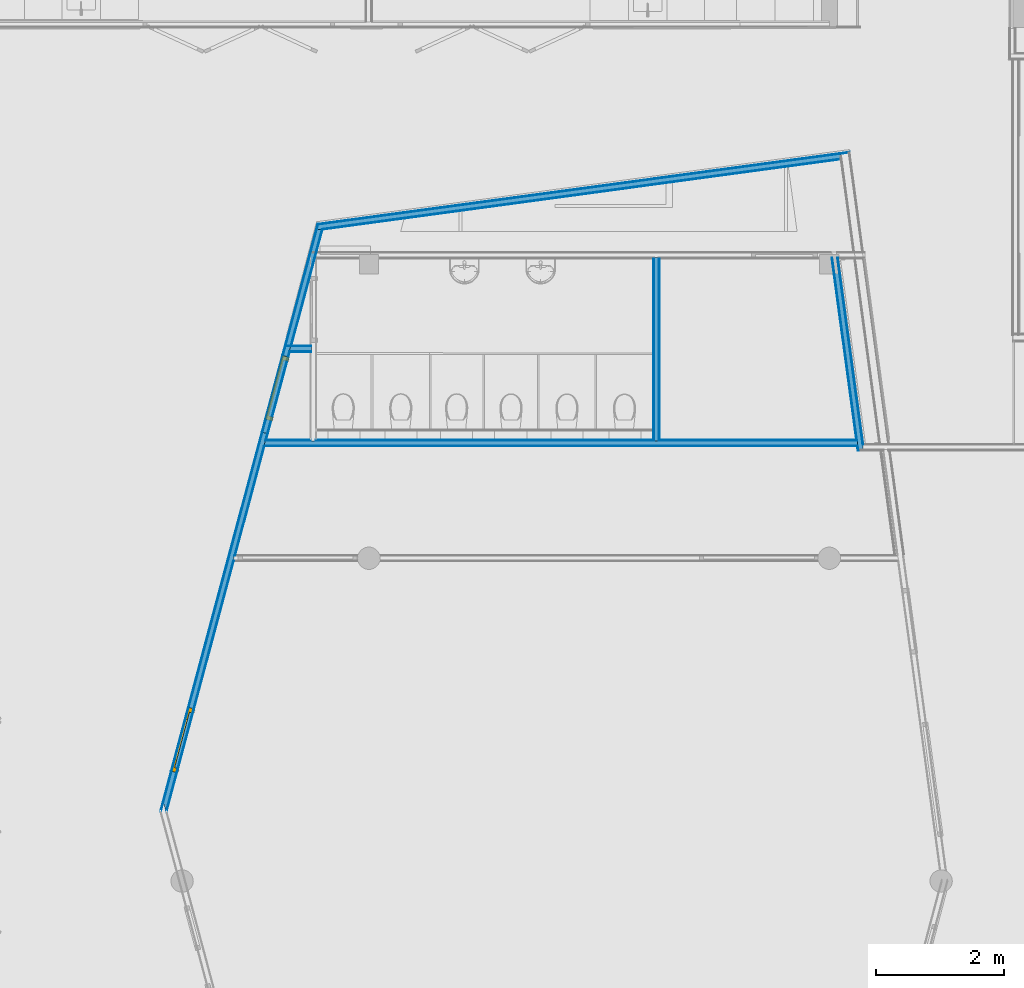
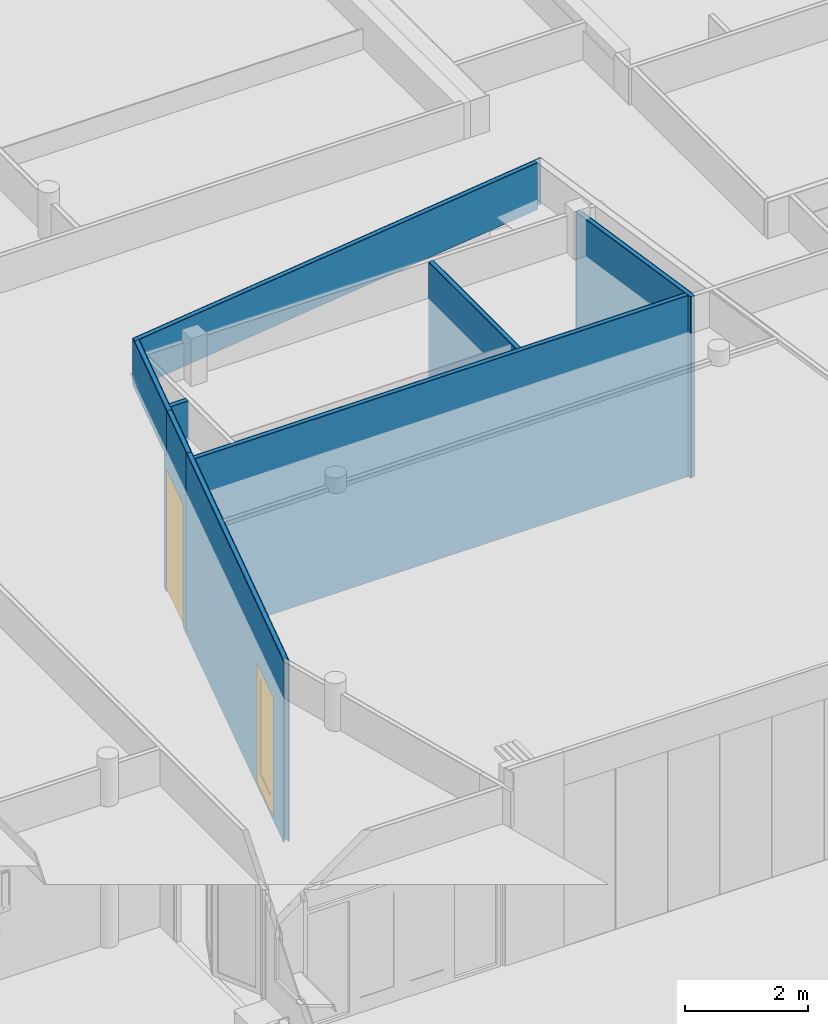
# One storey, part 63 of 167: 24 building element parts, 2 doors, 2 openings, 8 elements without a shape of their own.
"""IFC2X3 building model written with IfcOpenShell, lengths in millimetres."""

from ifc_helpers import new_model, entity, si_unit, converted_unit, derived_unit, money_unit, direction, frame, origin_with_axes, place, context, subcontext, project, spatial, open_shell, faceted_brep, surface_model, material, type_object, element, fill, aggregate, save


model = new_model("IFC2X3")

# Units and contexts
model_context = context("Model", 3, precision=0.01, world=origin_with_axes(), true_north=direction((0.0, 1.0)))
plan_context = context("Plan", 3, precision=0.01, world=origin_with_axes(), true_north=direction((0.0, 1.0)))
body_context = subcontext(model_context, "Body", "Model", "MODEL_VIEW")
ifc_project = project(units=[si_unit("LENGTHUNIT", "METRE", prefix="MILLI"), si_unit("AREAUNIT", "SQUARE_METRE"), si_unit("VOLUMEUNIT", "CUBIC_METRE"), converted_unit("PLANEANGLEUNIT", "DEGREE", entity("IfcPlaneAngleMeasure", 0.0174532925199), si_unit("PLANEANGLEUNIT", "RADIAN"), dimensions=[0, 0, 0, 0, 0, 0, 0]), si_unit("SOLIDANGLEUNIT", "STERADIAN"), money_unit("EUR"), converted_unit("TIMEUNIT", "Year", entity("IfcTimeMeasure", 31556926.0), si_unit("TIMEUNIT", "SECOND"), dimensions=[0, 0, 1, 0, 0, 0, 0]), si_unit("MASSUNIT", "GRAM", prefix="KILO"), si_unit("THERMODYNAMICTEMPERATUREUNIT", "DEGREE_CELSIUS"), si_unit("LUMINOUSINTENSITYUNIT", "LUMEN"), si_unit("ENERGYUNIT", "JOULE", prefix="MEGA"), derived_unit("THERMALCONDUCTANCEUNIT", [(si_unit("POWERUNIT", "WATT"), 1), (si_unit("LENGTHUNIT", "METRE"), -1), (si_unit("THERMODYNAMICTEMPERATUREUNIT", "KELVIN"), -1)]), derived_unit("SPECIFICHEATCAPACITYUNIT", [(si_unit("ENERGYUNIT", "JOULE"), 1), (si_unit("MASSUNIT", "GRAM", prefix="KILO"), -1), (si_unit("THERMODYNAMICTEMPERATUREUNIT", "KELVIN"), -1)]), derived_unit("MASSDENSITYUNIT", [(si_unit("MASSUNIT", "GRAM", prefix="KILO"), 1), (si_unit("VOLUMEUNIT", "CUBIC_METRE"), -1)])], contexts=[model_context, plan_context])

# Site, building, storey
site_placement = place(None, origin_with_axes())
site = spatial("IfcSite", under=ifc_project, at=site_placement, Name="Site", CompositionType="ELEMENT")
building_placement = place(site_placement, origin_with_axes())
building = spatial("IfcBuilding", under=site, at=building_placement, Name="Naam gebouw", CompositionType="ELEMENT")
storey_placement = place(building_placement, origin_with_axes())
storey = spatial("IfcBuildingStorey", under=building, at=storey_placement, Name="Begane grond", CompositionType="ELEMENT", Elevation=0.0)

# Door
door_style = type_object("IfcDoorStyle", Name="D1 24", ConstructionType="NOTDEFINED", OperationType="SINGLE_SWING_RIGHT", ParameterTakesPrecedence=False, Sizeable=False)
wall_3_placement = place(storey_placement, frame((13126.5539524, 37126.6966009, -100.0), z_axis=(0.0, 0.0, 1.0), x_axis=(-0.258819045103, -0.965925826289, 0.0)))
opening_1_placement = place(wall_3_placement, frame((637.5978603, 0.0, 100.0), z_axis=(0.0, 0.0, 1.0), x_axis=(1.0, 0.0, 0.0)))
door_1_placement = place(opening_1_placement, frame((517.0, 0.0, 0.0), z_axis=(0.0, 0.0, 1.0), x_axis=(-1.0, 0.0, 0.0)))
door_1 = element("IfcDoor", 1, at=door_1_placement, inside=storey, type_object=door_style, Name="32_Deur_Hi-01s", ObjectType="DOOR", OverallHeight=2367.0, OverallWidth=1034.0, context=body_context, shape_type="Brep", body=[
    faceted_brep([(67.0, 10.0, 0.0), (67.0, 10.0, 2300.0), (67.0, -64.0, 2300.0), (67.0, -64.0, 0.0), (42.0, 10.0, 2300.0), (42.0, 10.0, 0.0), (42.0, 50.0, 2300.0), (0.0, 50.0, 2300.0), (0.0, -64.0, 2300.0), (0.0, -64.0, 0.0), (0.0, 50.0, 0.0), (42.0, 50.0, 0.0)], [[[0, 1, 2, 3]], [[4, 1, 0, 5]], [[4, 6, 7, 8, 2, 1]], [[3, 2, 8, 9]], [[5, 0, 3, 9, 10, 11]], [[6, 4, 5, 11]], [[6, 11, 10, 7]], [[10, 9, 8, 7]]]),
    faceted_brep([(992.0, 10.0, 2300.0), (967.0, 10.0, 2300.0), (967.0, -64.0, 2300.0), (1034.0, -64.0, 2300.0), (1034.0, 50.0, 2300.0), (992.0, 50.0, 2300.0), (992.0, 10.0, 0.0), (967.0, 10.0, 0.0), (967.0, -64.0, 0.0), (1034.0, -64.0, 0.0), (1034.0, 50.0, 0.0), (992.0, 50.0, 0.0)], [[[0, 1, 2, 3, 4, 5]], [[1, 0, 6, 7]], [[1, 7, 8, 2]], [[3, 2, 8, 9]], [[4, 3, 9, 10]], [[11, 5, 4, 10]], [[0, 5, 11, 6]], [[6, 11, 10, 9, 8, 7]]]),
    faceted_brep([(42.0, 50.0, 2325.0), (42.0, 50.0, 2300.0), (0.0, 50.0, 2300.0), (0.0, 50.0, 2367.0), (1034.0, 50.0, 2367.0), (1034.0, 50.0, 2300.0), (992.0, 50.0, 2300.0), (992.0, 50.0, 2325.0), (42.0, 10.0, 2325.0), (42.0, 10.0, 2300.0), (67.0, 10.0, 2300.0), (67.0, -64.0, 2300.0), (0.0, -64.0, 2300.0), (0.0, -64.0, 2367.0), (1034.0, -64.0, 2367.0), (1034.0, -64.0, 2300.0), (992.0, 10.0, 2300.0), (967.0, -64.0, 2300.0), (967.0, 10.0, 2300.0), (992.0, 10.0, 2325.0)], [[[0, 1, 2, 3, 4, 5, 6, 7]], [[1, 0, 8, 9]], [[9, 10, 11, 12, 2, 1]], [[2, 12, 13, 3]], [[3, 13, 14, 4]], [[4, 14, 15, 5]], [[16, 6, 5, 15, 17, 18]], [[7, 6, 16, 19]], [[0, 7, 19, 8]], [[16, 18, 10, 9, 8, 19]], [[10, 18, 17, 11]], [[17, 15, 14, 13, 12, 11]]]),
    faceted_brep([(992.0, 50.0, 0.0), (992.0, 10.0, 0.0), (42.0, 10.0, 0.0), (42.0, 50.0, 0.0), (992.0, 50.0, 2325.0), (992.0, 10.0, 2325.0), (42.0, 10.0, 2325.0), (42.0, 50.0, 2325.0)], [[[0, 1, 2, 3]], [[4, 5, 1, 0]], [[1, 5, 6, 2]], [[3, 2, 6, 7]], [[0, 3, 7, 4]], [[7, 6, 5, 4]]]),
])

wall_7_placement = place(storey_placement, frame((12731.3288936, 35651.6966009, -100.0), z_axis=(0.0, 0.0, 1.0), x_axis=(-0.258819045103, -0.965925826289, 0.0)))
opening_2_placement = place(wall_7_placement, frame((4806.70984022, 0.0, 102.0), z_axis=(0.0, 0.0, 1.0), x_axis=(1.0, 0.0, 0.0)))
door_2_placement = place(opening_2_placement, frame((517.0, 0.0, 0.0), z_axis=(0.0, 0.0, 1.0), x_axis=(-1.0, 0.0, 0.0)))
door_2 = element("IfcDoor", 2, at=door_2_placement, inside=storey, type_object=door_style, Name="32_Deur_Hi-05", ObjectType="DOOR", OverallHeight=2367.0, OverallWidth=1034.0, context=body_context, shape_type="SurfaceModel", body=[
    faceted_brep([(67.0, 10.0, 0.0), (67.0, 10.0, 2300.0), (67.0, -64.0, 2300.0), (67.0, -64.0, 0.0), (42.0, 10.0, 2300.0), (42.0, 10.0, 0.0), (42.0, 50.0, 2300.0), (0.0, 50.0, 2300.0), (0.0, -64.0, 2300.0), (0.0, -64.0, 0.0), (0.0, 50.0, 0.0), (42.0, 50.0, 0.0)], [[[0, 1, 2, 3]], [[4, 1, 0, 5]], [[4, 6, 7, 8, 2, 1]], [[3, 2, 8, 9]], [[5, 0, 3, 9, 10, 11]], [[6, 4, 5, 11]], [[6, 11, 10, 7]], [[10, 9, 8, 7]]]),
    faceted_brep([(992.0, 10.0, 2300.0), (967.0, 10.0, 2300.0), (967.0, -64.0, 2300.0), (1034.0, -64.0, 2300.0), (1034.0, 50.0, 2300.0), (992.0, 50.0, 2300.0), (992.0, 10.0, 0.0), (967.0, 10.0, 0.0), (967.0, -64.0, 0.0), (1034.0, -64.0, 0.0), (1034.0, 50.0, 0.0), (992.0, 50.0, 0.0)], [[[0, 1, 2, 3, 4, 5]], [[1, 0, 6, 7]], [[1, 7, 8, 2]], [[3, 2, 8, 9]], [[4, 3, 9, 10]], [[11, 5, 4, 10]], [[0, 5, 11, 6]], [[6, 11, 10, 9, 8, 7]]]),
    faceted_brep([(42.0, 50.0, 2325.0), (42.0, 50.0, 2300.0), (0.0, 50.0, 2300.0), (0.0, 50.0, 2367.0), (1034.0, 50.0, 2367.0), (1034.0, 50.0, 2300.0), (992.0, 50.0, 2300.0), (992.0, 50.0, 2325.0), (42.0, 10.0, 2325.0), (42.0, 10.0, 2300.0), (67.0, 10.0, 2300.0), (67.0, -64.0, 2300.0), (0.0, -64.0, 2300.0), (0.0, -64.0, 2367.0), (1034.0, -64.0, 2367.0), (1034.0, -64.0, 2300.0), (992.0, 10.0, 2300.0), (967.0, -64.0, 2300.0), (967.0, 10.0, 2300.0), (992.0, 10.0, 2325.0)], [[[0, 1, 2, 3, 4, 5, 6, 7]], [[1, 0, 8, 9]], [[9, 10, 11, 12, 2, 1]], [[2, 12, 13, 3]], [[3, 13, 14, 4]], [[4, 14, 15, 5]], [[16, 6, 5, 15, 17, 18]], [[7, 6, 16, 19]], [[0, 7, 19, 8]], [[16, 18, 10, 9, 8, 19]], [[10, 18, 17, 11]], [[17, 15, 14, 13, 12, 11]]]),
    faceted_brep([(992.0, 50.0, 300.0), (992.0, 10.0, 300.0), (842.0, 10.0, 300.0), (842.0, 50.0, 300.0), (992.0, 50.0, 2175.0), (992.0, 10.0, 2175.0), (842.0, 10.0, 2175.0), (842.0, 50.0, 2175.0)], [[[0, 1, 2, 3]], [[4, 5, 1, 0]], [[1, 5, 6, 2]], [[3, 2, 6, 7]], [[0, 3, 7, 4]], [[7, 6, 5, 4]]]),
    faceted_brep([(42.0, 50.0, 300.0), (42.0, 10.0, 300.0), (42.0, 10.0, 2175.0), (42.0, 50.0, 2175.0), (192.0, 50.0, 300.0), (192.0, 10.0, 300.0), (192.0, 10.0, 2175.0), (192.0, 50.0, 2175.0)], [[[0, 1, 2, 3]], [[4, 5, 1, 0]], [[1, 5, 6, 2]], [[3, 2, 6, 7]], [[0, 3, 7, 4]], [[7, 6, 5, 4]]]),
    faceted_brep([(992.0, 50.0, 0.0), (992.0, 10.0, 0.0), (42.0, 10.0, 0.0), (42.0, 50.0, 0.0), (992.0, 50.0, 300.0), (992.0, 10.0, 300.0), (842.0, 10.0, 300.0), (192.0, 10.0, 300.0), (42.0, 10.0, 300.0), (42.0, 50.0, 300.0), (192.0, 50.0, 300.0), (842.0, 50.0, 300.0)], [[[0, 1, 2, 3]], [[4, 5, 1, 0]], [[1, 5, 6, 7, 8, 2]], [[3, 2, 8, 9]], [[0, 3, 9, 10, 11, 4]], [[11, 6, 5, 4]], [[10, 7, 6, 11]], [[9, 8, 7, 10]]]),
    faceted_brep([(992.0, 50.0, 2325.0), (992.0, 10.0, 2325.0), (992.0, 10.0, 2175.0), (992.0, 50.0, 2175.0), (42.0, 50.0, 2325.0), (42.0, 10.0, 2325.0), (42.0, 10.0, 2175.0), (192.0, 10.0, 2175.0), (842.0, 10.0, 2175.0), (842.0, 50.0, 2175.0), (192.0, 50.0, 2175.0), (42.0, 50.0, 2175.0)], [[[0, 1, 2, 3]], [[4, 5, 1, 0]], [[1, 5, 6, 7, 8, 2]], [[3, 2, 8, 9]], [[0, 3, 9, 10, 11, 4]], [[11, 6, 5, 4]], [[10, 7, 6, 11]], [[9, 8, 7, 10]]]),
    surface_model("IfcShellBasedSurfaceModel", [(842.0, 36.0, 300.0), (192.0, 36.0, 300.0), (192.0, 36.0, 2175.0), (842.0, 36.0, 2175.0)], [open_shell([[[0, 1, 2, 3]]])]),
    surface_model("IfcShellBasedSurfaceModel", [(842.0, 24.0, 300.0), (842.0, 24.0, 2175.0), (192.0, 24.0, 2175.0), (192.0, 24.0, 300.0)], [open_shell([[[0, 1, 2, 3]]])]),
])

# Wall, building element parts
wall_type = type_object("IfcWallType", Name="_TenW_22_Metalstud 100 enkel gipsvezelplaat 100", PredefinedType="NOTDEFINED")
wall_1_placement = place(storey_placement, frame((13498.7793695, 37126.6966009, -100.0), z_axis=(0.0, 0.0, 1.0), x_axis=(-1.0, 0.0, 0.0)))
wall_1 = element("IfcWall", 3, at=wall_1_placement, inside=storey, type_object=wall_type, Name="22_Wand_Wand-x")
ifc_material_1 = material(Name="Gipsplaat watervast")
building_element_part_1_placement = place(wall_1_placement, origin_with_axes())
building_element_part_1 = element("IfcBuildingElementPart", 4, at=building_element_part_1_placement, material=ifc_material_1, Name="Gipsplaat watervast", context=body_context, shape_type="Brep", body=[
    faceted_brep([(0.0, 50.0, 30.0), (0.0, 37.5, 30.0), (0.0, 37.5, 3630.0), (0.0, 50.0, 3630.0), (330.509704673, 37.5000071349, 30.0), (333.859069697, 50.0000075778, 30.0), (330.509702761, 37.5, 3630.0), (333.859067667, 50.0, 3630.0)], [[[0, 1, 2, 3]], [[4, 1, 0, 5]], [[1, 4, 6, 2]], [[2, 6, 7, 3]], [[5, 0, 3, 7]], [[4, 5, 7, 6]]]),
])
ifc_material_2 = material(Name="Isolatie - Steenwol zacht")
building_element_part_2_placement = place(wall_1_placement, origin_with_axes())
building_element_part_2 = element("IfcBuildingElementPart", 5, at=building_element_part_2_placement, material=ifc_material_2, Name="Isolatie - Steenwol zacht", context=body_context, shape_type="Brep", body=[
    faceted_brep([(0.0, 37.5, 30.0), (0.0, -37.5, 30.0), (0.0, -37.5, 3630.0), (0.0, 37.5, 3630.0), (323.354466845, -37.4999952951, 30.0), (343.450657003, 37.5000074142, 30.0), (323.354465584, -37.5, 3630.0), (343.450655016, 37.5, 3630.0)], [[[0, 1, 2, 3]], [[4, 1, 0, 5]], [[1, 4, 6, 2]], [[2, 6, 7, 3]], [[5, 0, 3, 7]], [[4, 5, 7, 6]]]),
])
building_element_part_3_placement = place(wall_1_placement, origin_with_axes())
building_element_part_3 = element("IfcBuildingElementPart", 6, at=building_element_part_3_placement, material=ifc_material_1, Name="Gipsplaat watervast", context=body_context, shape_type="Brep", body=[
    faceted_brep([(0.0, -37.5, 30.0), (0.0, -50.0, 30.0), (0.0, -50.0, 3630.0), (0.0, -37.5, 3630.0), (397.650814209, -50.0, 30.0), (401.000180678, -37.4999941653, 30.0), (397.650814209, -50.0, 2702.0), (307.064148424, -50.0, 2702.0), (307.064148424, -50.0, 3630.0), (310.413513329, -37.5, 3630.0), (310.413513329, -37.5, 2702.0), (401.000179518, -37.4999984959, 2702.0)], [[[0, 1, 2, 3]], [[4, 1, 0, 5]], [[1, 4, 6, 7, 8, 2]], [[2, 8, 9, 3]], [[5, 0, 3, 9, 10, 11]], [[4, 5, 11, 6]], [[11, 10, 7, 6]], [[10, 9, 8, 7]]]),
])
aggregate(wall_1, [building_element_part_1, building_element_part_2, building_element_part_3])

wall_2_placement = place(storey_placement, frame((18898.7746129, 38589.2116284, -100.0), z_axis=(0.0, 0.0, 1.0), x_axis=(0.0, -1.0, 0.0)))
wall_2 = element("IfcWall", 7, at=wall_2_placement, inside=storey, type_object=wall_type, Name="22_Wand_Wand-x")
building_element_part_4_placement = place(wall_2_placement, origin_with_axes())
building_element_part_4 = element("IfcBuildingElementPart", 8, at=building_element_part_4_placement, material=ifc_material_1, Name="Gipsplaat watervast", context=body_context, shape_type="Brep", body=[
    faceted_brep([(50.0, 37.5, 3630.0), (50.0, 50.0, 3630.0), (50.0, 50.0, 30.0), (50.0, 37.5, 30.0), (2887.51502748, 50.0, 3630.0), (2887.51502748, 37.5, 3630.0), (2887.51502748, 50.0, 30.0), (2887.51502748, 37.5, 30.0)], [[[0, 1, 2, 3]], [[4, 1, 0, 5]], [[1, 4, 6, 2]], [[3, 2, 6, 7]], [[5, 0, 3, 7]], [[4, 5, 7, 6]]]),
])
building_element_part_5_placement = place(wall_2_placement, origin_with_axes())
building_element_part_5 = element("IfcBuildingElementPart", 9, at=building_element_part_5_placement, material=ifc_material_2, Name="Isolatie - Steenwol zacht", context=body_context, shape_type="Brep", body=[
    faceted_brep([(37.5, -37.5, 3630.0), (37.5, 37.5, 3630.0), (37.5, 37.5, 30.0), (37.5, -37.5, 30.0), (2900.01502748, 37.5, 3630.0), (2900.01502748, -37.5, 3630.0), (2900.01502748, 37.5, 30.0), (2900.01502748, -37.5, 30.0)], [[[0, 1, 2, 3]], [[4, 1, 0, 5]], [[1, 4, 6, 2]], [[3, 2, 6, 7]], [[5, 0, 3, 7]], [[4, 5, 7, 6]]]),
])
building_element_part_6_placement = place(wall_2_placement, origin_with_axes())
building_element_part_6 = element("IfcBuildingElementPart", 10, at=building_element_part_6_placement, material=ifc_material_1, Name="Gipsplaat watervast", context=body_context, shape_type="Brep", body=[
    faceted_brep([(50.0, -50.0, 3630.0), (50.0, -37.5, 3630.0), (50.0, -37.5, 30.0), (50.0, -50.0, 30.0), (2887.51502748, -37.5, 3630.0), (2887.51502748, -50.0, 3630.0), (2887.51502748, -37.5, 30.0), (2887.51502748, -50.0, 30.0)], [[[0, 1, 2, 3]], [[4, 1, 0, 5]], [[1, 4, 6, 2]], [[3, 2, 6, 7]], [[5, 0, 3, 7]], [[4, 5, 7, 6]]]),
])
aggregate(wall_2, [building_element_part_4, building_element_part_5, building_element_part_6])

# Wall, opening
wall_3 = element("IfcWall", 11, at=wall_3_placement, inside=storey, type_object=wall_type, Name="22_Wand_Wand-x")
opening_1 = element("IfcOpeningElement", 12, at=opening_1_placement, cuts=wall_3, Name="32_Deur_Hi-01s", context=body_context, shape_type="Brep", body=[
    faceted_brep([(-517.0, 100.0, 2367.0), (-517.0, 100.0, 0.0), (-517.0, -200.0, 0.0), (-517.0, -200.0, 2367.0), (517.0, 100.0, 2367.0), (517.0, 100.0, 0.0), (517.0, -200.0, 0.0), (517.0, -200.0, 2367.0)], [[[0, 1, 2, 3]], [[0, 4, 5, 1]], [[1, 5, 6, 2]], [[3, 2, 6, 7]], [[4, 0, 3, 7]], [[5, 4, 7, 6]]]),
])

fill(opening_1, door_1)

# Building element part
building_element_part_7_placement = place(wall_3_placement, origin_with_axes())
building_element_part_7 = element("IfcBuildingElementPart", 13, at=building_element_part_7_placement, material=ifc_material_1, Name="Gipsplaat watervast", context=body_context, shape_type="Brep", body=[
    faceted_brep([(1154.5978603, 50.0, 100.0), (1154.5978603, 50.0, 2467.0), (120.5978603, 50.0, 2467.0), (120.5978603, 50.0, 100.0), (120.5978603, 50.0, 30.0), (25.4254045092, 50.0, 30.0), (25.4253971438, 50.0, 2702.0), (120.5978603, 50.0, 2702.0), (120.5978603, 50.0, 3630.0), (1474.81204972, 50.0, 3630.0), (1474.81204972, 50.0, 30.0), (1154.5978603, 50.0, 30.0), (1154.5978603, 37.5, 100.0), (1154.5978603, 37.5, 2467.0), (120.5978603, 37.5, 2467.0), (120.5978603, 37.5, 100.0), (120.5978603, 37.5, 30.0), (28.774769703, 37.5, 30.0), (28.7747620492, 37.5, 2702.0), (120.5978603, 37.5, 2702.0), (120.5978603, 37.5, 3630.0), (1478.16141462, 37.5, 3630.0), (1478.16141462, 37.5, 30.0), (1154.5978603, 37.5, 30.0)], [[[0, 1, 2, 3, 4, 5, 6, 7, 8, 9, 10, 11]], [[1, 0, 12, 13]], [[2, 1, 13, 14]], [[3, 2, 14, 15]], [[3, 15, 16, 4]], [[16, 17, 5, 4]], [[17, 18, 6, 5]], [[7, 6, 18, 19]], [[8, 7, 19, 20]], [[8, 20, 21, 9]], [[21, 22, 10, 9]], [[11, 10, 22, 23]], [[12, 0, 11, 23]], [[13, 12, 23, 22, 21, 20, 19, 18, 17, 16, 15, 14]]]),
])

building_element_part_8_placement = place(wall_3_placement, origin_with_axes())
building_element_part_8 = element("IfcBuildingElementPart", 14, at=building_element_part_8_placement, material=ifc_material_2, Name="Isolatie - Steenwol zacht", context=body_context, shape_type="Brep", body=[
    faceted_brep([(1154.5978603, 37.5, 100.0), (1154.5978603, 37.5, 2467.0), (120.5978603, 37.5, 2467.0), (120.5978603, 37.5, 100.0), (120.5978603, 37.5, 30.0), (-48.8709466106, 37.5, 30.0), (-48.8709502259, 37.5, 2702.0), (120.5978603, 37.5, 2702.0), (120.5978603, 37.5, 3630.0), (1361.87109746, 37.5, 3630.0), (1361.87109746, 37.5, 30.0), (1154.5978603, 37.5, 30.0), (1154.5978603, -37.5, 100.0), (1154.5978603, -37.5, 2467.0), (120.5978603, -37.5, 2467.0), (120.5978603, -37.5, 100.0), (120.5978603, -37.5, 30.0), (-28.7747560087, -37.5, 30.0), (-28.7747604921, -37.5, 2702.0), (120.5978603, -37.5, 2702.0), (120.5978603, -37.5, 3630.0), (1361.87109746, -37.5, 3630.0), (1361.87109746, -37.5, 30.0), (1154.5978603, -37.5, 30.0)], [[[0, 1, 2, 3, 4, 5, 6, 7, 8, 9, 10, 11]], [[1, 0, 12, 13]], [[2, 1, 13, 14]], [[3, 2, 14, 15]], [[3, 15, 16, 4]], [[16, 17, 5, 4]], [[17, 18, 6, 5]], [[7, 6, 18, 19]], [[8, 7, 19, 20]], [[8, 20, 21, 9]], [[21, 22, 10, 9]], [[11, 10, 22, 23]], [[12, 0, 11, 23]], [[13, 12, 23, 22, 21, 20, 19, 18, 17, 16, 15, 14]]]),
])

building_element_part_9_placement = place(wall_3_placement, origin_with_axes())
building_element_part_9 = element("IfcBuildingElementPart", 15, at=building_element_part_9_placement, material=ifc_material_1, Name="Gipsplaat watervast", context=body_context, shape_type="Brep", body=[
    faceted_brep([(1154.5978603, -37.5, 100.0), (1154.5978603, -37.5, 2467.0), (120.5978603, -37.5, 2467.0), (120.5978603, -37.5, 100.0), (120.5978603, -37.5, 30.0), (-41.7157143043, -37.5, 30.0), (-41.7157143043, -37.5, 2702.0), (120.5978603, -37.5, 2702.0), (120.5978603, -37.5, 3630.0), (1361.87109746, -37.5, 3630.0), (1361.87109746, -37.5, 30.0), (1154.5978603, -37.5, 30.0), (1154.5978603, -50.0, 100.0), (1154.5978603, -50.0, 2467.0), (120.5978603, -50.0, 2467.0), (120.5978603, -50.0, 100.0), (120.5978603, -50.0, 30.0), (-38.3663493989, -50.0, 30.0), (-38.3663493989, -50.0, 2702.0), (120.5978603, -50.0, 2702.0), (120.5978603, -50.0, 3630.0), (1361.87109746, -50.0, 3630.0), (1361.87109746, -50.0, 30.0), (1154.5978603, -50.0, 30.0)], [[[0, 1, 2, 3, 4, 5, 6, 7, 8, 9, 10, 11]], [[1, 0, 12, 13]], [[2, 1, 13, 14]], [[3, 2, 14, 15]], [[3, 15, 16, 4]], [[16, 17, 5, 4]], [[17, 18, 6, 5]], [[7, 6, 18, 19]], [[8, 7, 19, 20]], [[8, 20, 21, 9]], [[21, 22, 10, 9]], [[11, 10, 22, 23]], [[12, 0, 11, 23]], [[13, 12, 23, 22, 21, 20, 19, 18, 17, 16, 15, 14]]]),
])

aggregate(wall_3, [building_element_part_7, building_element_part_8, building_element_part_9])

# Wall, building element parts
wall_4_placement = place(storey_placement, frame((12731.3288936, 35651.6966009, -100.0), z_axis=(0.0, 0.0, 1.0), x_axis=(1.0, 0.0, 0.0)))
wall_4 = element("IfcWall", 16, at=wall_4_placement, inside=storey, type_object=wall_type, Name="22_Wand_Wand-x")
building_element_part_10_placement = place(wall_4_placement, origin_with_axes())
building_element_part_10 = element("IfcBuildingElementPart", 17, at=building_element_part_10_placement, material=ifc_material_1, Name="Gipsplaat watervast", context=body_context, shape_type="Brep", body=[
    faceted_brep([(65.1612686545, 50.0000000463, 3630.0), (761.238429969, 50.0000020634, 3630.0), (761.238429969, 50.0000000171, 30.0), (65.1612686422, 50.0000000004, 30.0), (761.238429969, 37.5000007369, 3630.0), (61.8119037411, 37.5000000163, 3630.0), (761.238429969, 37.5000000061, 30.0), (61.8119037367, 37.5000000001, 30.0)], [[[0, 1, 2, 3]], [[4, 1, 0, 5]], [[1, 4, 6, 2]], [[3, 2, 6, 7]], [[5, 0, 3, 7]], [[4, 5, 7, 6]]]),
    faceted_brep([(836.238429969, 50.0000020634, 3630.0), (6129.94571925, 50.0000020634, 3630.0), (6129.94571925, 50.0000000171, 30.0), (836.238429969, 50.0000000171, 30.0), (6129.94571925, 37.5000007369, 3630.0), (836.238429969, 37.5000007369, 3630.0), (6129.94571925, 37.5000000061, 30.0), (836.238429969, 37.5000000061, 30.0)], [[[0, 1, 2, 3]], [[4, 1, 0, 5]], [[1, 4, 6, 2]], [[3, 2, 6, 7]], [[5, 0, 3, 7]], [[4, 5, 7, 6]]]),
    faceted_brep([(9291.10118956, 50.0000020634, 3630.0), (9292.79417148, 37.5000007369, 3630.0), (9292.79417157, 37.5000000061, 30.0), (9291.10118984, 50.0000000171, 30.0), (6204.94571925, 37.5000007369, 3630.0), (6204.94571925, 50.0000020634, 3630.0), (6204.94571925, 37.5000000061, 30.0), (6204.94571925, 50.0000000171, 30.0)], [[[0, 1, 2, 3]], [[4, 1, 0, 5]], [[1, 4, 6, 2]], [[3, 2, 6, 7]], [[5, 0, 3, 7]], [[4, 5, 7, 6]]]),
])
building_element_part_11_placement = place(wall_4_placement, origin_with_axes())
building_element_part_11 = element("IfcBuildingElementPart", 18, at=building_element_part_11_placement, material=ifc_material_2, Name="Isolatie - Steenwol zacht", context=body_context, shape_type="Brep", body=[
    faceted_brep([(9305.40829797, 37.5000007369, 3630.0), (9315.56618831, -37.4999986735, 3630.0), (9315.56618849, -37.499999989, 30.0), (9305.40829807, 37.5000000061, 30.0), (28.7747620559, -37.4999999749, 3630.0), (48.8709514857, 37.5000000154, 3630.0), (28.7747620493, -37.4999999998, 30.0), (48.8709514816, 37.5000000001, 30.0)], [[[0, 1, 2, 3]], [[4, 1, 0, 5]], [[1, 4, 6, 2]], [[3, 2, 6, 7]], [[5, 0, 3, 7]], [[4, 5, 7, 6]]]),
])
building_element_part_12_placement = place(wall_4_placement, origin_with_axes())
building_element_part_12 = element("IfcBuildingElementPart", 19, at=building_element_part_12_placement, material=ifc_material_1, Name="Gipsplaat watervast", context=body_context, shape_type="Brep", body=[
    faceted_brep([(9302.95206182, -37.4999986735, 3630.0), (9304.64504373, -50.0, 3630.0), (9304.64504373, -50.0, 30.0), (9302.95206199, -37.499999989, 30.0), (25.4253971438, -50.0, 3630.0), (28.7747620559, -37.4999999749, 3630.0), (25.4253971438, -50.0, 30.0), (28.7747620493, -37.4999999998, 30.0)], [[[0, 1, 2, 3]], [[4, 1, 0, 5]], [[1, 4, 6, 2]], [[3, 2, 6, 7]], [[5, 0, 3, 7]], [[4, 5, 7, 6]]]),
])
aggregate(wall_4, [building_element_part_10, building_element_part_11, building_element_part_12])

wall_5_placement = place(storey_placement, frame((21680.4359848, 38599.3253529, -100.0), z_axis=(0.0, 0.0, 1.0), x_axis=(0.134213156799, -0.990952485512, 0.0)))
wall_5 = element("IfcWall", 20, at=wall_5_placement, inside=storey, type_object=wall_type, Name="22_Wand_Wand-x")
building_element_part_13_placement = place(wall_5_placement, origin_with_axes())
building_element_part_13 = element("IfcBuildingElementPart", 21, at=building_element_part_13_placement, material=ifc_material_1, Name="Gipsplaat watervast", context=body_context, shape_type="Brep", body=[
    faceted_brep([(54.820370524, 50.0, 3630.0), (3009.41051151, 50.0, 3630.0), (3009.41051151, 50.0, 30.0), (54.820370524, 50.0, 30.0), (3007.71752978, 37.5, 3630.0), (53.1273887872, 37.5, 3630.0), (3007.71752978, 37.5, 30.0), (53.1273887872, 37.5, 30.0)], [[[0, 1, 2, 3]], [[4, 1, 0, 5]], [[1, 4, 6, 2]], [[3, 2, 6, 7]], [[5, 0, 3, 7]], [[4, 5, 7, 6]]]),
])
building_element_part_14_placement = place(wall_5_placement, origin_with_axes())
building_element_part_14 = element("IfcBuildingElementPart", 22, at=building_element_part_14_placement, material=ifc_material_2, Name="Isolatie - Steenwol zacht", context=body_context, shape_type="Brep", body=[
    faceted_brep([(0.0, 37.5, 3630.0), (3040.4810655, 37.5, 3630.0), (3083.40228873, 37.5, 3630.0), (3083.40228873, 37.5, 30.0), (0.0, 37.5, 30.0), (0.0, -37.5, 3630.0), (3040.4810655, -37.5, 3630.0), (3073.24439831, -37.5, 3630.0), (3073.24439831, -37.5, 30.0), (0.0, -37.5, 30.0)], [[[0, 1, 2, 3, 4]], [[1, 0, 5, 6, 7, 2]], [[8, 3, 2, 7]], [[4, 3, 8, 9]], [[5, 0, 4, 9]], [[6, 5, 9, 8, 7]]]),
])
building_element_part_15_placement = place(wall_5_placement, origin_with_axes())
building_element_part_15 = element("IfcBuildingElementPart", 23, at=building_element_part_15_placement, material=ifc_material_1, Name="Gipsplaat watervast", context=body_context, shape_type="Brep", body=[
    faceted_brep([(42.9694983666, -37.5, 3630.0), (2931.61962976, -37.5, 3630.0), (2931.61962976, -37.5, 30.0), (42.9694983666, -37.5, 30.0), (2929.92664802, -50.0, 3630.0), (41.2765166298, -50.0, 3630.0), (2929.92664802, -50.0, 30.0), (41.2765166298, -50.0, 30.0)], [[[0, 1, 2, 3]], [[4, 1, 0, 5]], [[1, 4, 6, 2]], [[3, 2, 6, 7]], [[5, 0, 3, 7]], [[4, 5, 7, 6]]]),
    faceted_brep([(3007.30438871, -37.5, 3630.0), (3040.4810655, -37.5, 3630.0), (3085.85850991, -37.5, 3630.0), (3085.85850991, -37.5, 30.0), (3007.30438871, -37.5, 30.0), (3005.61140698, -50.0, 3630.0), (3040.4810655, -50.0, 3630.0), (3084.16552818, -50.0, 3630.0), (3084.16552818, -50.0, 30.0), (3005.61140698, -50.0, 30.0)], [[[0, 1, 2, 3, 4]], [[1, 0, 5, 6, 7, 2]], [[8, 3, 2, 7]], [[4, 3, 8, 9]], [[5, 0, 4, 9]], [[6, 5, 9, 8, 7]]]),
])
aggregate(wall_5, [building_element_part_13, building_element_part_14, building_element_part_15])

wall_6_placement = place(storey_placement, frame((13637.6065716, 39033.9709411, 2602.0), z_axis=(0.0, 0.0, 1.0), x_axis=(0.990952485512, 0.134213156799, 0.0)))
wall_6 = element("IfcWall", 24, at=wall_6_placement, inside=storey, type_object=wall_type, Name="22_Wand_Wand-x")
building_element_part_16_placement = place(wall_6_placement, origin_with_axes())
building_element_part_16 = element("IfcBuildingElementPart", 25, at=building_element_part_16_placement, material=ifc_material_1, Name="Gipsplaat watervast", context=body_context, shape_type="Brep", body=[
    faceted_brep([(8363.03448579, 37.5, 0.0), (-38.506816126, 37.5, 0.0), (-33.2745885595, 50.0, 0.0), (8363.03448579, 50.0, 0.0), (8363.03448579, 37.5, 928.0), (-38.506816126, 37.5, 928.0), (-33.2745885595, 50.0, 928.0), (8363.03448579, 50.0, 928.0)], [[[0, 1, 2, 3]], [[4, 5, 1, 0]], [[2, 1, 5, 6]], [[3, 2, 6, 7]], [[3, 7, 4, 0]], [[7, 6, 5, 4]]]),
])
building_element_part_17_placement = place(wall_6_placement, origin_with_axes())
building_element_part_17 = element("IfcBuildingElementPart", 26, at=building_element_part_17_placement, material=ifc_material_2, Name="Isolatie - Steenwol zacht", context=body_context, shape_type="Brep", body=[
    faceted_brep([(8225.53448579, -37.5, 0.0), (-56.3493068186, -37.5, 0.0), (-24.9559414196, 37.5, 0.0), (8225.53448579, 37.5, 0.0), (8225.53448579, -37.5, 928.0), (-56.3493068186, -37.5, 928.0), (-24.9559414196, 37.5, 928.0), (8225.53448579, 37.5, 928.0)], [[[0, 1, 2, 3]], [[4, 5, 1, 0]], [[2, 1, 5, 6]], [[3, 2, 6, 7]], [[3, 7, 4, 0]], [[7, 6, 5, 4]]]),
])
building_element_part_18_placement = place(wall_6_placement, origin_with_axes())
building_element_part_18 = element("IfcBuildingElementPart", 27, at=building_element_part_18_placement, material=ifc_material_1, Name="Gipsplaat watervast", context=body_context, shape_type="Brep", body=[
    faceted_brep([(8225.53448579, -50.0, 0.0), (19.7237138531, -50.0, 0.0), (24.9559414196, -37.5, 0.0), (8225.53448579, -37.5, 0.0), (8225.53448579, -50.0, 928.0), (19.7237138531, -50.0, 928.0), (24.9559414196, -37.5, 928.0), (8225.53448579, -37.5, 928.0)], [[[0, 1, 2, 3]], [[4, 5, 1, 0]], [[2, 1, 5, 6]], [[3, 2, 6, 7]], [[3, 7, 4, 0]], [[7, 6, 5, 4]]]),
])
aggregate(wall_6, [building_element_part_16, building_element_part_17, building_element_part_18])

# Wall, opening
wall_7 = element("IfcWall", 28, at=wall_7_placement, inside=storey, type_object=wall_type, Name="22_Wand_Wand-x")
opening_2 = element("IfcOpeningElement", 29, at=opening_2_placement, cuts=wall_7, Name="32_Deur_Hi-05", context=body_context, shape_type="Brep", body=[
    faceted_brep([(-517.0, 100.0, 2367.0), (-517.0, 100.0, 0.0), (-517.0, -200.0, 0.0), (-517.0, -200.0, 2367.0), (517.0, 100.0, 2367.0), (517.0, 100.0, 0.0), (517.0, -200.0, 0.0), (517.0, -200.0, 2367.0)], [[[0, 1, 2, 3]], [[0, 4, 5, 1]], [[1, 5, 6, 2]], [[3, 2, 6, 7]], [[4, 0, 3, 7]], [[5, 4, 7, 6]]]),
])

fill(opening_2, door_2)

# Building element part
building_element_part_19_placement = place(wall_7_placement, origin_with_axes())
building_element_part_19 = element("IfcBuildingElementPart", 30, at=building_element_part_19_placement, material=ifc_material_1, Name="Gipsplaat watervast", context=body_context, shape_type="Brep", body=[
    faceted_brep([(41.7157143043, 37.5, 3630.0), (38.3663493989, 50.0, 3630.0), (38.3663493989, 50.0, 30.0), (41.7157143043, 37.5, 30.0), (1811.27680835, 50.0, 3630.0), (1814.62617326, 37.5, 3630.0), (1811.27680835, 50.0, 30.0), (1814.62617326, 37.5, 30.0)], [[[0, 1, 2, 3]], [[4, 1, 0, 5]], [[1, 4, 6, 2]], [[3, 2, 6, 7]], [[5, 0, 3, 7]], [[4, 5, 7, 6]]]),
    faceted_brep([(1892.27188679, 37.5, 3630.0), (1892.27188679, 37.5, 30.0), (5929.77396339, 37.5, 30.0), (5929.77396339, 37.5, 3630.0), (5323.70984022, 37.5, 102.0), (4289.70984022, 37.5, 102.0), (4289.70984022, 37.5, 2469.0), (5323.70984022, 37.5, 2469.0), (1888.92252188, 50.0, 3630.0), (1888.92252188, 50.0, 30.0), (5951.42459848, 50.0, 30.0), (5951.42459848, 50.0, 3630.0), (5323.70984022, 50.0, 102.0), (4289.70984022, 50.0, 102.0), (4289.70984022, 50.0, 2469.0), (5323.70984022, 50.0, 2469.0)], [[[0, 1, 2, 3], [4, 5, 6, 7]], [[8, 9, 1, 0]], [[9, 10, 2, 1]], [[3, 2, 10, 11]], [[8, 0, 3, 11]], [[12, 13, 5, 4]], [[13, 14, 6, 5]], [[14, 15, 7, 6]], [[15, 12, 4, 7]], [[11, 10, 9, 8], [12, 15, 14, 13]]]),
])

building_element_part_20_placement = place(wall_7_placement, origin_with_axes())
building_element_part_20 = element("IfcBuildingElementPart", 31, at=building_element_part_20_placement, material=ifc_material_2, Name="Isolatie - Steenwol zacht", context=body_context, shape_type="Brep", body=[
    faceted_brep([(-165.161268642, -37.5, 3630.0), (-165.161268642, -37.5, 30.0), (5824.87015282, -37.5, 30.0), (5824.87015282, -37.5, 3630.0), (5323.70984022, -37.5, 102.0), (4289.70984022, -37.5, 102.0), (4289.70984022, -37.5, 2469.0), (5323.70984022, -37.5, 2469.0), (-165.161268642, 37.5, 3630.0), (-165.161268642, 37.5, 30.0), (5954.77396339, 37.5, 30.0), (5954.77396339, 37.5, 3630.0), (5323.70984022, 37.5, 102.0), (4289.70984022, 37.5, 102.0), (4289.70984022, 37.5, 2469.0), (5323.70984022, 37.5, 2469.0)], [[[0, 1, 2, 3], [4, 5, 6, 7]], [[8, 9, 1, 0]], [[9, 10, 2, 1]], [[3, 2, 10, 11]], [[8, 0, 3, 11]], [[12, 13, 5, 4]], [[13, 14, 6, 5]], [[14, 15, 7, 6]], [[15, 12, 4, 7]], [[11, 10, 9, 8], [12, 15, 14, 13]]]),
])

building_element_part_21_placement = place(wall_7_placement, origin_with_axes())
building_element_part_21 = element("IfcBuildingElementPart", 32, at=building_element_part_21_placement, material=ifc_material_1, Name="Gipsplaat watervast", context=body_context, shape_type="Brep", body=[
    faceted_brep([(-165.161268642, -50.0, 3630.0), (-165.161268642, -50.0, 30.0), (5953.21951773, -50.0, 30.0), (5953.21951773, -50.0, 3630.0), (5323.70984022, -50.0, 102.0), (4289.70984022, -50.0, 102.0), (4289.70984022, -50.0, 2469.0), (5323.70984022, -50.0, 2469.0), (-165.161268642, -37.5, 3630.0), (-165.161268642, -37.5, 30.0), (5974.87015282, -37.5, 30.0), (5974.87015282, -37.5, 3630.0), (5323.70984022, -37.5, 102.0), (4289.70984022, -37.5, 102.0), (4289.70984022, -37.5, 2469.0), (5323.70984022, -37.5, 2469.0)], [[[0, 1, 2, 3], [4, 5, 6, 7]], [[8, 9, 1, 0]], [[9, 10, 2, 1]], [[3, 2, 10, 11]], [[8, 0, 3, 11]], [[12, 13, 5, 4]], [[13, 14, 6, 5]], [[14, 15, 7, 6]], [[15, 12, 4, 7]], [[11, 10, 9, 8], [12, 15, 14, 13]]]),
])

aggregate(wall_7, [building_element_part_19, building_element_part_20, building_element_part_21])

# Wall, building element parts
wall_8_placement = place(storey_placement, frame((13637.6065716, 39033.9709411, 2602.0), z_axis=(0.0, 0.0, 1.0), x_axis=(-0.258819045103, -0.965925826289, 0.0)))
wall_8 = element("IfcWall", 33, at=wall_8_placement, inside=storey, type_object=wall_type, Name="22_Wand_Wand-x")
building_element_part_22_placement = place(wall_8_placement, origin_with_axes())
building_element_part_22 = element("IfcBuildingElementPart", 34, at=building_element_part_22_placement, material=ifc_material_1, Name="Gipsplaat watervast", context=body_context, shape_type="Brep", body=[
    faceted_brep([(2003.33045598, 37.5, 928.0), (2095.15355424, 37.5, 928.0), (2095.15355424, 50.0, 928.0), (1999.98109108, 50.0, 928.0), (2003.33045598, 37.5, 0.0), (2095.15355424, 37.5, 0.0), (2095.15355424, 50.0, 0.0), (1999.98109108, 50.0, 0.0)], [[[0, 1, 2, 3]], [[4, 5, 1, 0]], [[2, 1, 5, 6]], [[3, 2, 6, 7]], [[4, 0, 3, 7]], [[7, 6, 5, 4]]]),
    faceted_brep([(1922.33537755, 50.0, 928.0), (33.2745885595, 50.0, 928.0), (38.506816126, 37.5, 928.0), (1925.68474245, 37.5, 928.0), (1922.33537755, 50.0, 0.0), (33.2745885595, 50.0, 0.0), (38.506816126, 37.5, 0.0), (1925.68474245, 37.5, 0.0)], [[[0, 1, 2, 3]], [[4, 5, 1, 0]], [[2, 1, 5, 6]], [[3, 2, 6, 7]], [[3, 7, 4, 0]], [[7, 6, 5, 4]]]),
])
building_element_part_23_placement = place(wall_8_placement, origin_with_axes())
building_element_part_23 = element("IfcBuildingElementPart", 35, at=building_element_part_23_placement, material=ifc_material_2, Name="Isolatie - Steenwol zacht", context=body_context, shape_type="Brep", body=[
    faceted_brep([(56.3493068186, -37.5, 928.0), (2095.15355424, -37.5, 928.0), (2095.15355424, 37.5, 928.0), (24.9559414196, 37.5, 928.0), (56.3493068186, -37.5, 0.0), (2095.15355424, -37.5, 0.0), (2095.15355424, 37.5, 0.0), (24.9559414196, 37.5, 0.0)], [[[0, 1, 2, 3]], [[4, 5, 1, 0]], [[2, 1, 5, 6]], [[3, 2, 6, 7]], [[4, 0, 3, 7]], [[7, 6, 5, 4]]]),
])
building_element_part_24_placement = place(wall_8_placement, origin_with_axes())
building_element_part_24 = element("IfcBuildingElementPart", 36, at=building_element_part_24_placement, material=ifc_material_1, Name="Gipsplaat watervast", context=body_context, shape_type="Brep", body=[
    faceted_brep([(-19.7237138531, -50.0, 928.0), (2095.15355424, -50.0, 928.0), (2095.15355424, -37.5, 928.0), (-24.9559414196, -37.5, 928.0), (-19.7237138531, -50.0, 0.0), (2095.15355424, -50.0, 0.0), (2095.15355424, -37.5, 0.0), (-24.9559414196, -37.5, 0.0)], [[[0, 1, 2, 3]], [[4, 5, 1, 0]], [[2, 1, 5, 6]], [[3, 2, 6, 7]], [[4, 0, 3, 7]], [[7, 6, 5, 4]]]),
])
aggregate(wall_8, [building_element_part_22, building_element_part_23, building_element_part_24])

save(model, "model.ifc")
